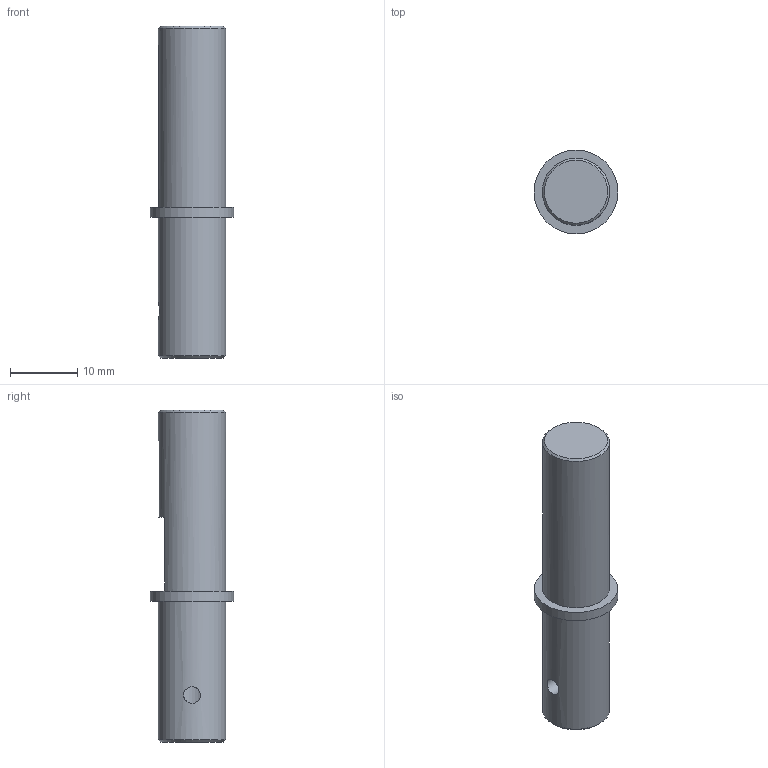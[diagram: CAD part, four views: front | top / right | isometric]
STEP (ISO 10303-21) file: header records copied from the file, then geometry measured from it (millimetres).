
FILE_DESCRIPTION(('Open CASCADE Model'),'2;1');
FILE_NAME('07_Shaft_Input','2026-10-20T19:44:38',('Author'),( 'Open CASCADE'),'Open CASCADE STEP processor 8.0','build123d', 'Unknown');
FILE_SCHEMA(('AUTOMOTIVE_DESIGN { 1 0 10303 214 1 1 1 1 }'));
Length unit declared in the file: millimetre
Products named in the file (2): 07_Shaft_Input
Assembly tree (1 placements, depth 2):
  07_Shaft_Input
    07_Shaft_Input
Bounding box: 12.5 x 12.5 x 49.5 mm (x, y, z)
Volume: 3703.9 mm3; surface area: 1971.3 mm2
Topology: 1 solids, 1 shells, 14 faces, 25 edges, 16 vertices
Faces by surface type: plane 7, cylinder 5, cone 2
Full cylindrical faces by diameter (mm): 2.5 x1, 5 x1, 10 x2, 12.5 x1
Entity records: 1186 total; most frequent: CARTESIAN_POINT 595, DIRECTION 105, ORIENTED_EDGE 50, PCURVE 50, DEFINITIONAL_REPRESENTATION 50, LINE 39, VECTOR 39, AXIS2_PLACEMENT_3D 28
